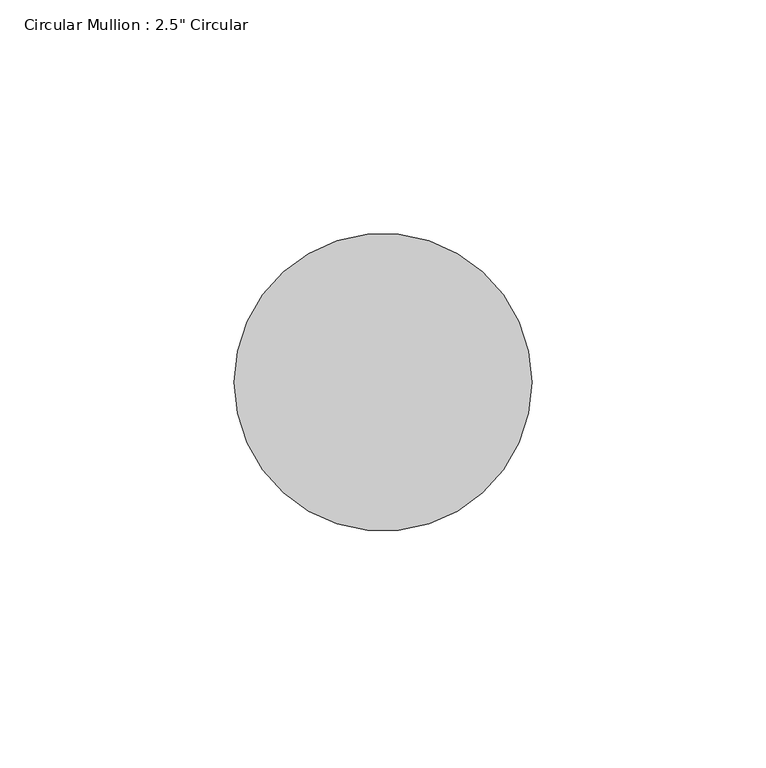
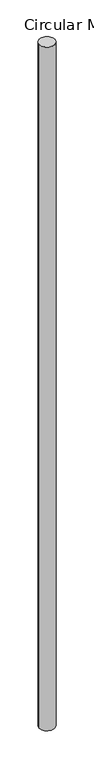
"""IFC4 building model written with IfcOpenShell, lengths in millimetres: member geometry."""

import ifcopenshell
import ifcopenshell.guid

model = None  # the IFC model being written
_history = None  # IfcOwnerHistory: only IFC2X3 demands one
_inside = {}  # id of a spatial element -> (the spatial element, [elements in it])
_under = {}  # id of a project, library or spatial element -> (it, [spatial elements below it])
_declared = {}  # id of a project -> (the project, [libraries it declares])
_typed = {}  # id of a type object -> (the type object, [elements of that type])
_made_of = {}  # id of a material, layer set ... -> (it, [elements and type objects made of it])


def new_model(schema):
    """Start an empty IFC model of exactly this schema.

    Asked for "IFC4X3", IfcOpenShell would pick the latest addendum, in which some entities
    have other attributes; the version numbers below select the first issue.
    IFC2X3 requires an IfcOwnerHistory on every rooted entity: one is made here for all.
    """
    global model, _history
    if schema == "IFC4X3":
        model = ifcopenshell.file(schema_version=(4, 3, 0, 0))
    else:
        model = ifcopenshell.file(schema=schema)
    _inside.clear()
    _under.clear()
    _declared.clear()
    _typed.clear()
    _made_of.clear()
    _history = None
    if model.schema == "IFC2X3":
        org = make("IfcOrganization", Name="unknown")
        user = make(
            "IfcPersonAndOrganization",
            ThePerson=make("IfcPerson", FamilyName="unknown"),
            TheOrganization=org,
        )
        app = make(
            "IfcApplication",
            ApplicationDeveloper=org,
            Version="unknown",
            ApplicationFullName="unknown",
            ApplicationIdentifier="unknown",
        )
        _history = make(
            "IfcOwnerHistory",
            OwningUser=user,
            OwningApplication=app,
            ChangeAction="ADDED",
            CreationDate=0,
        )
    return model


def make(cls, **values):
    """One entity of the class cls with the attributes given. An attribute that is None is left unset."""
    return model.create_entity(
        cls, **{name: value for name, value in values.items() if value is not None}
    )


def rooted(cls, **values):
    """An entity with a GlobalId (a new one), such as an element, a storey or a relation."""
    return make(cls, GlobalId=ifcopenshell.guid.new(), OwnerHistory=_history, **values)


def si_unit(unit_type, name, prefix=None):
    """IfcSIUnit, for example si_unit("LENGTHUNIT", "METRE", prefix="MILLI")."""
    return make("IfcSIUnit", UnitType=unit_type, Prefix=prefix, Name=name)


def assignment(units):
    """IfcUnitAssignment: the units of a project."""
    return None if units is None else make("IfcUnitAssignment", Units=units)


def point(xyz):
    """IfcCartesianPoint."""
    return None if xyz is None else make("IfcCartesianPoint", Coordinates=xyz)


def direction(xyz):
    """IfcDirection."""
    return None if xyz is None else make("IfcDirection", DirectionRatios=xyz)


def frame(location, z_axis=None, x_axis=None):
    """IfcAxis2Placement3D, a coordinate frame: its origin and axes. An axis left out is left unset."""
    return make(
        "IfcAxis2Placement3D",
        Location=point(location),
        Axis=direction(z_axis),
        RefDirection=direction(x_axis),
    )


def frame_2d(location, x_axis=None):
    """IfcAxis2Placement2D, a coordinate frame in the plane: its origin and x axis."""
    return make(
        "IfcAxis2Placement2D", Location=point(location), RefDirection=direction(x_axis)
    )


def origin():
    """The frame at (0, 0, 0) with its axes left unset."""
    return frame((0.0, 0.0, 0.0))


def origin_2d():
    """The frame at (0, 0) in the plane with its x axis left unset."""
    return frame_2d((0.0, 0.0))


def place(relative_to, where):
    """IfcLocalPlacement: puts the frame where relative to a parent placement (None: the world)."""
    return make(
        "IfcLocalPlacement", PlacementRelTo=relative_to, RelativePlacement=where
    )


def context(
    kind, dimensions, precision=None, world=None, true_north=None, identifier=None
):
    """IfcGeometricRepresentationContext, for example the 3D "Model" context."""
    return make(
        "IfcGeometricRepresentationContext",
        ContextIdentifier=identifier,
        ContextType=kind,
        CoordinateSpaceDimension=dimensions,
        Precision=precision,
        WorldCoordinateSystem=world,
        TrueNorth=true_north,
    )


def project(units=None, contexts=None):
    """IfcProject with its units and contexts."""
    return rooted(
        "IfcProject",
        Name="project",
        RepresentationContexts=contexts,
        UnitsInContext=assignment(units),
    )


def spatial(cls, under=None, at=None, **own):
    """A site, building, storey or space (cls), placed at a placement, below another one or the project."""
    s = rooted(cls, ObjectPlacement=at, **own)
    if under is not None:
        _under.setdefault(under.id(), (under, []))[1].append(s)
    return s


def circle_curve(where, radius):
    """IfcCircle in the frame where."""
    return make("IfcCircle", Position=where, Radius=radius)


def trimmed(basis, trim1, trim2, sense, master):
    """IfcTrimmedCurve: the piece of a basis curve between two trims."""
    return make(
        "IfcTrimmedCurve",
        BasisCurve=basis,
        Trim1=trim1,
        Trim2=trim2,
        SenseAgreement=sense,
        MasterRepresentation=master,
    )


def segment(curve, same_sense, transition):
    """IfcCompositeCurveSegment."""
    return make(
        "IfcCompositeCurveSegment",
        Transition=transition,
        SameSense=same_sense,
        ParentCurve=curve,
    )


def composite_curve(segments, self_intersect=None):
    """IfcCompositeCurve: segments joined end to end."""
    return make("IfcCompositeCurve", Segments=segments, SelfIntersect=self_intersect)


def outline(outer, holes=None, kind="AREA"):
    """IfcArbitraryClosedProfileDef: a profile drawn as a closed curve; with holes, ...WithVoids."""
    if holes is None:
        return make("IfcArbitraryClosedProfileDef", ProfileType=kind, OuterCurve=outer)
    return make(
        "IfcArbitraryProfileDefWithVoids",
        ProfileType=kind,
        OuterCurve=outer,
        InnerCurves=holes,
    )


def extrude(swept, where, along, depth):
    """IfcExtrudedAreaSolid: the profile swept, set in the frame where, extruded along a direction by depth."""
    return make(
        "IfcExtrudedAreaSolid",
        SweptArea=swept,
        Position=where,
        ExtrudedDirection=direction(along),
        Depth=depth,
    )


def shape(context_of_items, identifier, shape_type, items):
    """IfcShapeRepresentation: the items that make up one representation, for example the "Body"."""
    return make(
        "IfcShapeRepresentation",
        ContextOfItems=context_of_items,
        RepresentationIdentifier=identifier,
        RepresentationType=shape_type,
        Items=items,
    )


def source(mapping_origin, context_of_items, identifier, shape_type, items):
    """IfcRepresentationMap: a shape defined once, which mapped items show again and again."""
    return make(
        "IfcRepresentationMap",
        MappingOrigin=mapping_origin,
        MappedRepresentation=shape(context_of_items, identifier, shape_type, items),
    )


def transform(
    local_origin,
    x_axis=None,
    y_axis=None,
    z_axis=None,
    scale=None,
    scale2=None,
    scale3=None,
    uniform=True,
):
    """IfcCartesianTransformationOperator3D, or its non-uniform kind. x_axis, y_axis, z_axis: its Axis1, 2, 3."""
    if uniform:
        return make(
            "IfcCartesianTransformationOperator3D",
            Axis1=direction(x_axis),
            Axis2=direction(y_axis),
            LocalOrigin=point(local_origin),
            Scale=scale,
            Axis3=direction(z_axis),
        )
    return make(
        "IfcCartesianTransformationOperator3DnonUniform",
        Axis1=direction(x_axis),
        Axis2=direction(y_axis),
        LocalOrigin=point(local_origin),
        Scale=scale,
        Axis3=direction(z_axis),
        Scale2=scale2,
        Scale3=scale3,
    )


def mapped(mapping_source, mapping_target):
    """IfcMappedItem: shows the shape of a source again, moved by a transform."""
    return make(
        "IfcMappedItem", MappingSource=mapping_source, MappingTarget=mapping_target
    )


def made_of(thing, what):
    """Note that an element or type object is made of a material, layer set ...; save() writes the relation."""
    if what is not None:
        _made_of.setdefault(what.id(), (what, []))[1].append(thing)
    return thing


def element(
    cls,
    number,
    at=None,
    inside=None,
    cuts=None,
    type_object=None,
    material=None,
    context=None,
    identifier="Body",
    shape_type=None,
    held_by="IfcProductDefinitionShape",
    body=None,
    shapes=None,
    **own,
):
    """One element of the class cls, such as IfcWall. Its Tag is "e" and its number.

    at: its placement. inside: the storey or other place that contains it. cuts: it is an
    opening in that element (IfcRelVoidsElement). A single representation is given by context,
    identifier, shape_type and body (its items); several are given by shapes. held_by: the class
    of the entity that holds the representations. save() writes the other relations.
    """
    e = rooted(cls, Tag="e%d" % number, ObjectPlacement=at, **own)
    if body is not None:
        shapes = [shape(context, identifier, shape_type, body)]
    if shapes is not None:
        e.Representation = make(held_by, Representations=shapes)
    if inside is not None:
        _inside.setdefault(inside.id(), (inside, []))[1].append(e)
    if cuts is not None:
        rooted(
            "IfcRelVoidsElement", RelatingBuildingElement=cuts, RelatedOpeningElement=e
        )
    if type_object is not None:
        _typed.setdefault(type_object.id(), (type_object, []))[1].append(e)
    return made_of(e, material)


def aggregate(whole, parts):
    """IfcRelAggregates: a whole, such as a stair, and the parts it consists of."""
    return rooted("IfcRelAggregates", RelatingObject=whole, RelatedObjects=parts)


def save(model, path):
    """Write the relations noted so far, then the file.

    IfcRelAggregates (storeys below a building ...), IfcRelContainedInSpatialStructure (elements
    in a storey), IfcRelDefinesByType, IfcRelAssociatesMaterial and IfcRelDeclares: one each for
    every whole, place, type object, material and project.
    """
    for whole, parts in _under.values():
        aggregate(whole, parts)
    for where, things in _inside.values():
        rooted(
            "IfcRelContainedInSpatialStructure",
            RelatedElements=things,
            RelatingStructure=where,
        )
    for kind, things in _typed.values():
        rooted("IfcRelDefinesByType", RelatedObjects=things, RelatingType=kind)
    for what, things in _made_of.values():
        rooted("IfcRelAssociatesMaterial", RelatedObjects=things, RelatingMaterial=what)
    for by, libraries in _declared.values():
        rooted("IfcRelDeclares", RelatingContext=by, RelatedDefinitions=libraries)
    model.write(path)


def member_fa6789e4(model_context):
    return source(origin(), model_context, "Body", "SweptSolid", [
        extrude(outline(composite_curve([segment(trimmed(circle_curve(origin_2d(), 31.75), [point((31.75, 0.0))], [point((-31.75, 0.0))], False, "CARTESIAN"), True, "CONTINUOUS"), segment(trimmed(circle_curve(origin_2d(), 31.75), [point((-31.75, 0.0))], [point((31.75, 0.0))], False, "CARTESIAN"), True, "CONTINUOUS")], self_intersect=False)), frame((0.0, 0.0, -2936.5762278), z_axis=(0.0, 0.0, 1.0), x_axis=(1.0, 0.0, 0.0)), (0.0, 0.0, 1.0), 2936.5762278),
    ])


if __name__ == "__main__":
    model = new_model("IFC4")
    model_context = context("Model", 3, world=origin())
    ifc_project = project(units=[si_unit("LENGTHUNIT", "METRE", prefix="MILLI")], contexts=[model_context])
    site = spatial("IfcSite", under=ifc_project)
    building = spatial("IfcBuilding", under=site)
    placement = place(None, origin())
    member_shape = member_fa6789e4(model_context)
    element("IfcMember", 1, ObjectType="Circular Mullion : 2.5\" Circular", at=placement, inside=building, context=model_context, shape_type="MappedRepresentation", body=[
        mapped(member_shape, transform((0.0, 0.0, 0.0), x_axis=(1.0, 0.0, 0.0), y_axis=(0.0, 1.0, 0.0), z_axis=(0.0, 0.0, 1.0))),
    ])
    save(model, "model.ifc")
